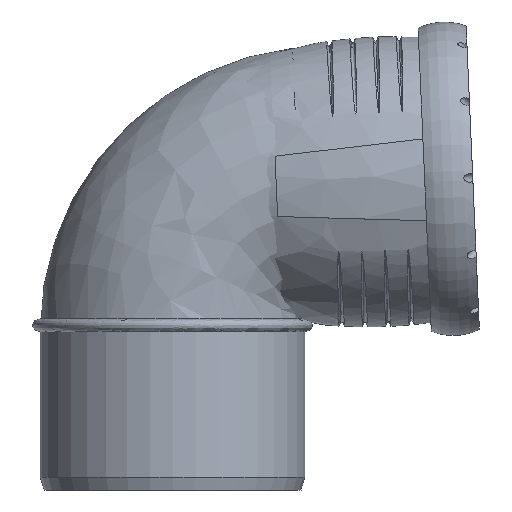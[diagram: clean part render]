
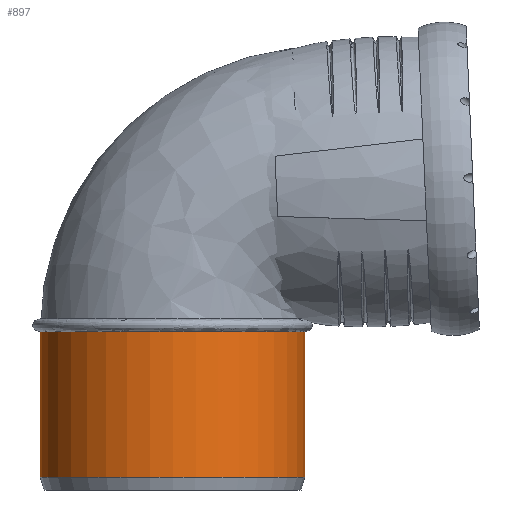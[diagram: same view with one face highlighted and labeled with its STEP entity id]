
A CAD part, front view. The second image highlights one B-rep face of the part: STEP entity #897.
In plain terms, the highlighted cylindrical face has radius 62.6 mm (diameter 125.2 mm), a full revolution.
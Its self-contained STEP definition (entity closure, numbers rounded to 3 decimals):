
#42=FACE_BOUND('',#158,.T.);
#71=CYLINDRICAL_SURFACE('',#966,62.6);
#104=FACE_OUTER_BOUND('',#157,.T.);
#157=EDGE_LOOP('',(#594,#595,#596));
#158=EDGE_LOOP('',(#597));
#243=CIRCLE('',#952,62.6);
#245=CIRCLE('',#955,62.6);
#251=CIRCLE('',#967,62.6);
#252=CIRCLE('',#968,62.6);
#351=VERTEX_POINT('',#1462);
#356=VERTEX_POINT('',#1554);
#357=VERTEX_POINT('',#1562);
#362=VERTEX_POINT('',#1583);
#450=EDGE_CURVE('',#357,#356,#243,.T.);
#453=EDGE_CURVE('',#351,#357,#245,.T.);
#459=EDGE_CURVE('',#356,#351,#251,.T.);
#460=EDGE_CURVE('',#362,#362,#252,.T.);
#594=ORIENTED_EDGE('',*,*,#459,.T.);
#595=ORIENTED_EDGE('',*,*,#453,.T.);
#596=ORIENTED_EDGE('',*,*,#450,.T.);
#597=ORIENTED_EDGE('',*,*,#460,.F.);
#897=ADVANCED_FACE('',(#104,#42),#71,.T.);
#952=AXIS2_PLACEMENT_3D('',#1563,#1048,#1049);
#955=AXIS2_PLACEMENT_3D('',#1567,#1054,#1055);
#966=AXIS2_PLACEMENT_3D('',#1581,#1076,#1077);
#967=AXIS2_PLACEMENT_3D('',#1582,#1078,#1079);
#968=AXIS2_PLACEMENT_3D('',#1584,#1080,#1081);
#1048=DIRECTION('center_axis',(0.,0.,-1.));
#1049=DIRECTION('ref_axis',(1.,0.,0.));
#1054=DIRECTION('center_axis',(0.,0.,-1.));
#1055=DIRECTION('ref_axis',(1.,0.,0.));
#1076=DIRECTION('center_axis',(0.,0.,-1.));
#1077=DIRECTION('ref_axis',(0.,1.,0.));
#1078=DIRECTION('center_axis',(0.,0.,-1.));
#1079=DIRECTION('ref_axis',(1.,0.,0.));
#1080=DIRECTION('center_axis',(0.,0.,-1.));
#1081=DIRECTION('ref_axis',(1.,0.,0.));
#1462=CARTESIAN_POINT('',(0.,-62.6,74.9));
#1554=CARTESIAN_POINT('',(0.,62.6,74.9));
#1562=CARTESIAN_POINT('',(-62.6,0.,74.9));
#1563=CARTESIAN_POINT('Origin',(0.,0.,74.9));
#1567=CARTESIAN_POINT('Origin',(0.,0.,74.9));
#1581=CARTESIAN_POINT('Origin',(0.,0.,40.45));
#1582=CARTESIAN_POINT('Origin',(0.,0.,74.9));
#1583=CARTESIAN_POINT('',(0.,62.6,6.));
#1584=CARTESIAN_POINT('Origin',(0.,0.,6.));
